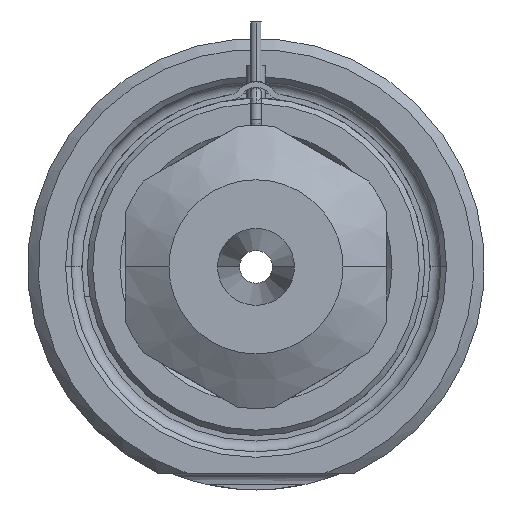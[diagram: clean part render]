
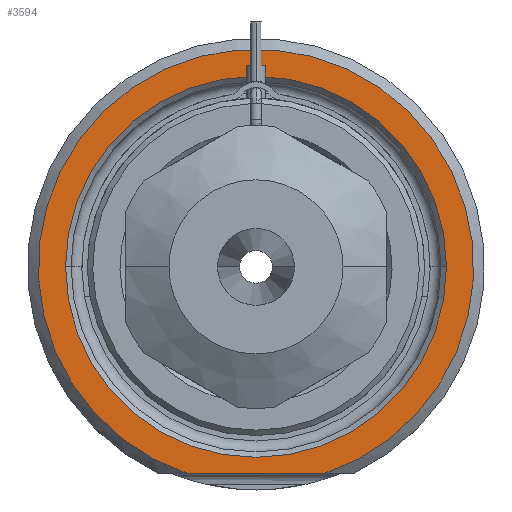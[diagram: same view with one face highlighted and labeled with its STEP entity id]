
A CAD part, front view. The second image highlights one B-rep face of the part: STEP entity #3594.
In plain terms, the highlighted planar face has unit normal (0, -1, 0).
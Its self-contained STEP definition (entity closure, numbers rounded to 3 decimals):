
#718=DIRECTION('',(1.,0.,0.));
#719=VECTOR('',#718,12.49);
#720=CARTESIAN_POINT('',(-6.245,0.,-19.));
#721=LINE('',#720,#719);
#722=CARTESIAN_POINT('',(0.,0.,0.));
#723=DIRECTION('',(0.,1.,0.));
#724=DIRECTION('',(-1.,0.,0.));
#725=AXIS2_PLACEMENT_3D('',#722,#723,#724);
#727=CARTESIAN_POINT('',(0.,0.,0.));
#728=DIRECTION('',(0.,1.,0.));
#729=DIRECTION('',(1.,0.,0.));
#730=AXIS2_PLACEMENT_3D('',#727,#728,#729);
#836=CARTESIAN_POINT('',(0.,0.,0.));
#837=DIRECTION('',(0.,-1.,0.));
#838=DIRECTION('',(0.312,0.,-0.95));
#839=AXIS2_PLACEMENT_3D('',#836,#837,#838);
#2419=CARTESIAN_POINT('',(-17.5,0.,0.));
#2420=CARTESIAN_POINT('',(17.5,0.,0.));
#2421=VERTEX_POINT('',#2419);
#2422=VERTEX_POINT('',#2420);
#2477=CARTESIAN_POINT('',(-6.245,0.,-19.));
#2478=CARTESIAN_POINT('',(6.245,0.,-19.));
#2479=VERTEX_POINT('',#2477);
#2480=VERTEX_POINT('',#2478);
#3578=CARTESIAN_POINT('',(0.,0.,0.));
#3579=DIRECTION('',(0.,-1.,0.));
#3580=DIRECTION('',(1.,0.,0.));
#3581=AXIS2_PLACEMENT_3D('',#3578,#3579,#3580);
#3582=PLANE('',#3581);
#3584=ORIENTED_EDGE('',*,*,#3583,.F.);
#3586=ORIENTED_EDGE('',*,*,#3585,.F.);
#3587=EDGE_LOOP('',(#3584,#3586));
#3588=FACE_OUTER_BOUND('',#3587,.F.);
#3589=ORIENTED_EDGE('',*,*,#3568,.F.);
#3591=ORIENTED_EDGE('',*,*,#3590,.F.);
#3592=EDGE_LOOP('',(#3589,#3591));
#3593=FACE_BOUND('',#3592,.F.);
#3594=ADVANCED_FACE('',(#3588,#3593),#3582,.T.);
#726=CIRCLE('',#725,17.5);
#731=CIRCLE('',#730,17.5);
#840=CIRCLE('',#839,20.);
#3568=EDGE_CURVE('',#2421,#2422,#726,.T.);
#3583=EDGE_CURVE('',#2479,#2480,#721,.T.);
#3585=EDGE_CURVE('',#2480,#2479,#840,.T.);
#3590=EDGE_CURVE('',#2422,#2421,#731,.T.);
